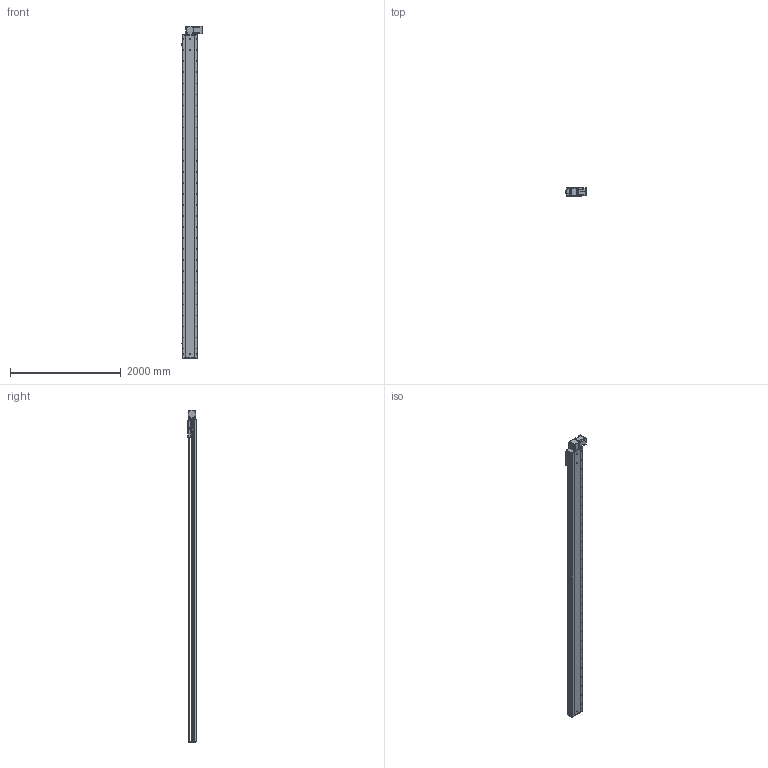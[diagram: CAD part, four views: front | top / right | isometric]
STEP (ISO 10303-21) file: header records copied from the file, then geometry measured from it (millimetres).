
FILE_DESCRIPTION (( 'STEP AP214' ), '1' );
FILE_NAME ('RTB28S-XX-5400-BL-M100-XX-C4.STEP', '2025-12-22T02:55:06', ( '' ), ( '' ), 'SwSTEP 2.0', 'SolidWorks 2018', '' );
FILE_SCHEMA (( 'AUTOMOTIVE_DESIGN' ));
Length unit declared in the file: millimetre
Products named in the file (4): RTB28S-GY-011^RTB28S-XX-XX-BL-M100-XX-C4; RTB28S-GY-004^RTB28S-XX-XX-BL-M100-XX-C4; RTB28S-GY-008^RTB28S-XX-XX-BL-M100-XX-C4; RTB28S-XX-5400-BL-M100-XX-C4
Assembly tree (3 placements, depth 2):
  RTB28S-XX-5400-BL-M100-XX-C4
    RTB28S-GY-011^RTB28S-XX-XX-BL-M100-XX-C4
    RTB28S-GY-004^RTB28S-XX-XX-BL-M100-XX-C4
    RTB28S-GY-008^RTB28S-XX-XX-BL-M100-XX-C4
Bounding box: 380.7 x 145 x 6007 mm (x, y, z)
Volume: 98903921.8 mm3; surface area: 9114670.7 mm2
Topology: 3 solids, 4 shells, 1008 faces, 2748 edges, 1768 vertices
Faces by surface type: cylinder 535, plane 389, cone 80, torus 4
Entity records: 40205 total; most frequent: CARTESIAN_POINT 8302, DIRECTION 5874, ORIENTED_EDGE 5432, EDGE_CURVE 2716, AXIS2_PLACEMENT_3D 2212, VERTEX_POINT 1768, VECTOR 1450, LINE 1450
